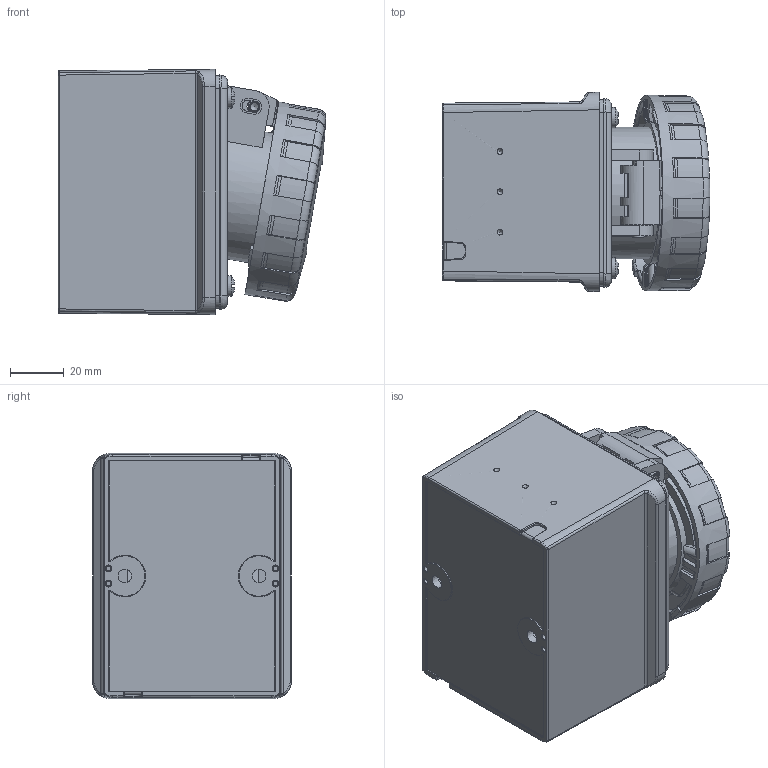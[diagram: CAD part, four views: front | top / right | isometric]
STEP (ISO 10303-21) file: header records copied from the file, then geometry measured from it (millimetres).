
FILE_DESCRIPTION(/* description */ (''),/* implementation_level */ '2;1');
FILE_NAME(/* name */ '4006108.stp',/* time_stamp */ '2019-11-07T08:25:05+01:00',/* author */ (''),/* organization */ (''),/* preprocessor_version */ 'ST-DEVELOPER v16.7',/* originating_system */ 'SIEMENS PLM Software NX 1888',/* authorisation */ '');
FILE_SCHEMA (('AUTOMOTIVE_DESIGN { 1 0 10303 214 3 1 1 1 }'));
Length unit declared in the file: millimetre
Products named in the file (1): BSOM1F50B996lbbe
Bounding box: 99.55 x 74 x 91.2 mm (x, y, z)
Volume: 150370.3 mm3; surface area: 121201.8 mm2
Topology: 10 solids, 10 shells, 1061 faces, 2796 edges, 1774 vertices
Faces by surface type: plane 447, cylinder 288, cone 104, torus 95, bspline 90, sphere 33, extrusion 4
Full cylindrical faces by diameter (mm): 2.2 x2, 3 x2, 3.5 x3, 3.546 x2, 4 x9, 4.3 x2, 7 x2, 7.6 x4, 39.4 x1, 43.4 x1, 49 x2, 62.1 x1, 62.2 x1, 67 x1
Entity records: 35820 total; most frequent: CARTESIAN_POINT 10195, DIRECTION 5396, ORIENTED_EDGE 5260, EDGE_CURVE 2630, AXIS2_PLACEMENT_3D 2062, VERTEX_POINT 1729, VECTOR 1272, LINE 1268
